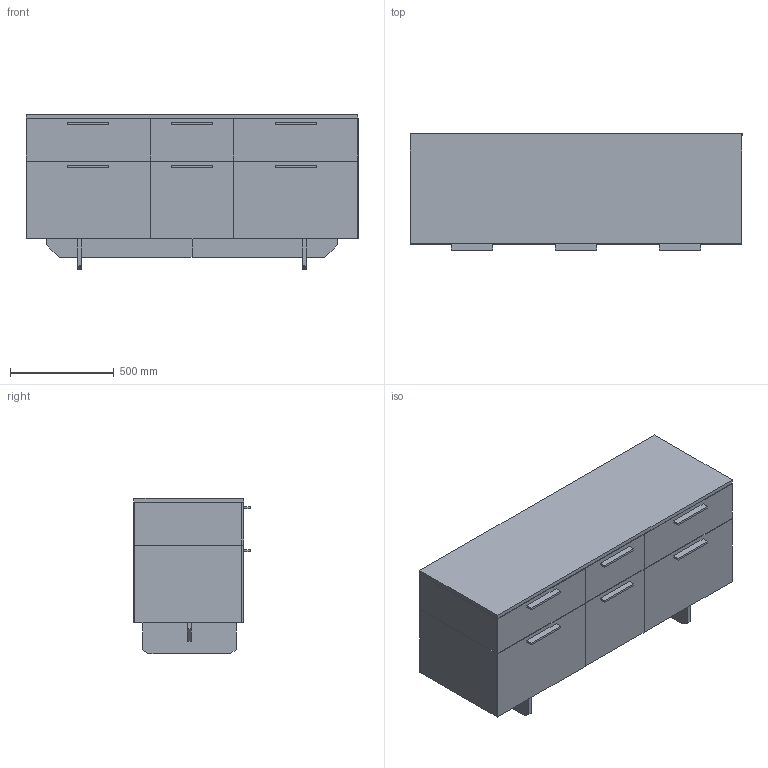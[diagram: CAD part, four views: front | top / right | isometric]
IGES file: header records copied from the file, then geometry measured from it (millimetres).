
Global section: file name: \\Archi-NAS\Comune\X GIOVANNI\MOBILI\ELEGNACE\ELEGANCE_glass_02.igs; native system: Rhinoceros ( Feb 23 2021 ); preprocessor: Trout Lake IGES 012 Feb 23 2021; date: 230607.143100; units: millimetre
Bounding box: 1600 x 560 x 750 mm (x, y, z)
Surface area: 17941994.9 mm2 (no closed solid volume)
Topology: 0 solids, 0 shells, 388 faces, 2336 edges, 2336 vertices
Faces by surface type: bspline 388
